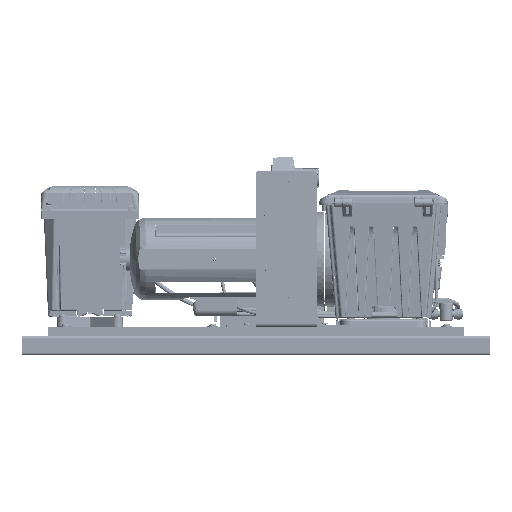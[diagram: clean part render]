
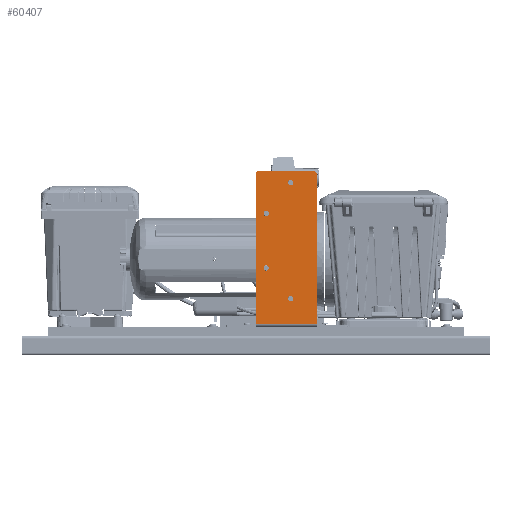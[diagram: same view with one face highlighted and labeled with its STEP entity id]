
A CAD part, left-side view. The second image highlights one B-rep face of the part: STEP entity #60407.
In plain terms, the highlighted planar face has unit normal (-1, 0, 0).
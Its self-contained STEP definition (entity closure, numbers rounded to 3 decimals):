
#2560 = EDGE_CURVE ( 'NONE', #83877, #119958, #22550, .T. ) ;
#8311 = VERTEX_POINT ( 'NONE', #39362 ) ;
#9138 = DIRECTION ( 'NONE',  ( 1., 0., 0. ) ) ;
#11041 = DIRECTION ( 'NONE',  ( 0., 0.707, -0.707 ) ) ;
#11767 = DIRECTION ( 'NONE',  ( 0., -1., 0. ) ) ;
#13036 = EDGE_CURVE ( 'NONE', #74373, #45444, #134914, .T. ) ;
#13299 = ORIENTED_EDGE ( 'NONE', *, *, #89158, .T. ) ;
#14690 = ORIENTED_EDGE ( 'NONE', *, *, #128660, .F. ) ;
#20498 = EDGE_CURVE ( 'NONE', #119958, #83877, #236260, .T. ) ;
#22071 = DIRECTION ( 'NONE',  ( 0., 0., 1. ) ) ;
#22550 = CIRCLE ( 'NONE', #115596, 0.107 ) ;
#23333 = VERTEX_POINT ( 'NONE', #210763 ) ;
#26526 = EDGE_LOOP ( 'NONE', ( #224797, #244587 ) ) ;
#28204 = EDGE_CURVE ( 'NONE', #303431, #35837, #162925, .T. ) ;
#32322 = FACE_OUTER_BOUND ( 'NONE', #106356, .T. ) ;
#32860 = VECTOR ( 'NONE', #11767, 39.37 ) ;
#33323 = CARTESIAN_POINT ( 'NONE',  ( -11.339, 1.411, 3.908 ) ) ;
#33717 = CARTESIAN_POINT ( 'NONE',  ( -11.339, 5.513, 5.887 ) ) ;
#35837 = VERTEX_POINT ( 'NONE', #52376 ) ;
#37648 = CARTESIAN_POINT ( 'NONE',  ( -11.339, -0.006, 2.137 ) ) ;
#38548 = CARTESIAN_POINT ( 'NONE',  ( -11.339, -0.006, 8.83 ) ) ;
#39362 = CARTESIAN_POINT ( 'NONE',  ( -11.339, -0.006, 8.936 ) ) ;
#39876 = DIRECTION ( 'NONE',  ( 0., -1., 0. ) ) ;
#43489 = AXIS2_PLACEMENT_3D ( 'NONE', #201815, #9138, #279530 ) ;
#44728 = DIRECTION ( 'NONE',  ( 1., 0., 0. ) ) ;
#45444 = VERTEX_POINT ( 'NONE', #265702 ) ;
#51018 = VERTEX_POINT ( 'NONE', #192394 ) ;
#52376 = CARTESIAN_POINT ( 'NONE',  ( -11.339, -1.5, 0.695 ) ) ;
#52953 = LINE ( 'NONE', #151749, #94807 ) ;
#55661 = ORIENTED_EDGE ( 'NONE', *, *, #303560, .T. ) ;
#56587 = FACE_BOUND ( 'NONE', #159055, .T. ) ;
#57825 = AXIS2_PLACEMENT_3D ( 'NONE', #309158, #131070, #186026 ) ;
#58037 = AXIS2_PLACEMENT_3D ( 'NONE', #148282, #44728, #22071 ) ;
#58144 = EDGE_LOOP ( 'NONE', ( #143174, #235472 ) ) ;
#60407 = ADVANCED_FACE ( 'NONE', ( #108344, #278447, #305966, #56587, #32322 ), #131056, .T. ) ;
#62464 = DIRECTION ( 'NONE',  ( 0., 0., 1. ) ) ;
#62768 = CARTESIAN_POINT ( 'NONE',  ( -11.339, 1.411, 3.802 ) ) ;
#64978 = VERTEX_POINT ( 'NONE', #197741 ) ;
#65652 = DIRECTION ( 'NONE',  ( 1., 0., 0. ) ) ;
#67436 = VERTEX_POINT ( 'NONE', #137015 ) ;
#74373 = VERTEX_POINT ( 'NONE', #199059 ) ;
#78652 = DIRECTION ( 'NONE',  ( 0., 0., 1. ) ) ;
#80863 = DIRECTION ( 'NONE',  ( 0., 0., 1. ) ) ;
#82335 = VERTEX_POINT ( 'NONE', #162530 ) ;
#83877 = VERTEX_POINT ( 'NONE', #253508 ) ;
#89158 = EDGE_CURVE ( 'NONE', #82335, #51018, #284460, .T. ) ;
#91617 = AXIS2_PLACEMENT_3D ( 'NONE', #38548, #307414, #109785 ) ;
#93534 = ORIENTED_EDGE ( 'NONE', *, *, #300885, .F. ) ;
#94807 = VECTOR ( 'NONE', #129042, 39.37 ) ;
#96665 = AXIS2_PLACEMENT_3D ( 'NONE', #33323, #227621, #78652 ) ;
#99276 = EDGE_CURVE ( 'NONE', #247679, #35837, #99513, .T. ) ;
#99513 = LINE ( 'NONE', #319859, #309854 ) ;
#100365 = AXIS2_PLACEMENT_3D ( 'NONE', #229846, #289678, #291271 ) ;
#106356 = EDGE_LOOP ( 'NONE', ( #14690, #55661, #93534, #187281, #243779, #130061 ) ) ;
#108344 = FACE_BOUND ( 'NONE', #26526, .T. ) ;
#109785 = DIRECTION ( 'NONE',  ( 0., 0., 1. ) ) ;
#110035 = EDGE_LOOP ( 'NONE', ( #181994, #265253 ) ) ;
#115596 = AXIS2_PLACEMENT_3D ( 'NONE', #282704, #65652, #62464 ) ;
#115737 = LINE ( 'NONE', #33717, #249927 ) ;
#117997 = VECTOR ( 'NONE', #263241, 39.37 ) ;
#119102 = CARTESIAN_POINT ( 'NONE',  ( -11.339, -5.013, 5.887 ) ) ;
#119958 = VERTEX_POINT ( 'NONE', #62768 ) ;
#128660 = EDGE_CURVE ( 'NONE', #64978, #186279, #134788, .T. ) ;
#128890 = ORIENTED_EDGE ( 'NONE', *, *, #234376, .T. ) ;
#129042 = DIRECTION ( 'NONE',  ( 0., 0., 1. ) ) ;
#129374 = AXIS2_PLACEMENT_3D ( 'NONE', #138274, #282437, #313177 ) ;
#130061 = ORIENTED_EDGE ( 'NONE', *, *, #189328, .T. ) ;
#131056 = PLANE ( 'NONE',  #100365 ) ;
#131070 = DIRECTION ( 'NONE',  ( 1., 0., 0. ) ) ;
#134788 = LINE ( 'NONE', #233565, #32860 ) ;
#134914 = CIRCLE ( 'NONE', #140267, 0.107 ) ;
#137015 = CARTESIAN_POINT ( 'NONE',  ( -11.339, -0.006, 8.723 ) ) ;
#138274 = CARTESIAN_POINT ( 'NONE',  ( -11.339, 1.411, 7.058 ) ) ;
#140267 = AXIS2_PLACEMENT_3D ( 'NONE', #37648, #297996, #80863 ) ;
#140272 = CARTESIAN_POINT ( 'NONE',  ( -11.339, 0.25, 0.695 ) ) ;
#140822 = CARTESIAN_POINT ( 'NONE',  ( -11.339, 2., 0.695 ) ) ;
#143174 = ORIENTED_EDGE ( 'NONE', *, *, #2560, .T. ) ;
#148282 = CARTESIAN_POINT ( 'NONE',  ( -11.339, -0.006, 8.83 ) ) ;
#151749 = CARTESIAN_POINT ( 'NONE',  ( -11.339, 2., 9.5 ) ) ;
#159055 = EDGE_LOOP ( 'NONE', ( #13299, #128890 ) ) ;
#162509 = EDGE_CURVE ( 'NONE', #8311, #67436, #231239, .T. ) ;
#162530 = CARTESIAN_POINT ( 'NONE',  ( -11.339, 1.411, 7.165 ) ) ;
#162925 = LINE ( 'NONE', #140272, #269475 ) ;
#181994 = ORIENTED_EDGE ( 'NONE', *, *, #162509, .T. ) ;
#186026 = DIRECTION ( 'NONE',  ( 0., 0., 1. ) ) ;
#186279 = VERTEX_POINT ( 'NONE', #281079 ) ;
#187281 = ORIENTED_EDGE ( 'NONE', *, *, #28204, .T. ) ;
#189328 = EDGE_CURVE ( 'NONE', #247679, #186279, #214660, .T. ) ;
#192394 = CARTESIAN_POINT ( 'NONE',  ( -11.339, 1.411, 6.952 ) ) ;
#197741 = CARTESIAN_POINT ( 'NONE',  ( -11.339, 1.9, 9.5 ) ) ;
#199059 = CARTESIAN_POINT ( 'NONE',  ( -11.339, -0.006, 2.03 ) ) ;
#201815 = CARTESIAN_POINT ( 'NONE',  ( -11.339, -0.006, 2.137 ) ) ;
#210763 = CARTESIAN_POINT ( 'NONE',  ( -11.339, 2., 9.4 ) ) ;
#214660 = LINE ( 'NONE', #119102, #117997 ) ;
#216202 = EDGE_CURVE ( 'NONE', #67436, #8311, #264937, .T. ) ;
#224797 = ORIENTED_EDGE ( 'NONE', *, *, #252025, .T. ) ;
#227621 = DIRECTION ( 'NONE',  ( 1., 0., 0. ) ) ;
#229846 = CARTESIAN_POINT ( 'NONE',  ( -11.339, 0.25, 0.625 ) ) ;
#231239 = CIRCLE ( 'NONE', #91617, 0.106 ) ;
#233565 = CARTESIAN_POINT ( 'NONE',  ( -11.339, -1.5, 9.5 ) ) ;
#234376 = EDGE_CURVE ( 'NONE', #51018, #82335, #239097, .T. ) ;
#235472 = ORIENTED_EDGE ( 'NONE', *, *, #20498, .T. ) ;
#236260 = CIRCLE ( 'NONE', #96665, 0.107 ) ;
#237795 = CARTESIAN_POINT ( 'NONE',  ( -11.339, -1.5, 9.4 ) ) ;
#239097 = CIRCLE ( 'NONE', #57825, 0.106 ) ;
#243779 = ORIENTED_EDGE ( 'NONE', *, *, #99276, .F. ) ;
#244587 = ORIENTED_EDGE ( 'NONE', *, *, #13036, .T. ) ;
#245361 = CIRCLE ( 'NONE', #43489, 0.107 ) ;
#247679 = VERTEX_POINT ( 'NONE', #237795 ) ;
#249927 = VECTOR ( 'NONE', #11041, 39.37 ) ;
#252025 = EDGE_CURVE ( 'NONE', #45444, #74373, #245361, .T. ) ;
#253508 = CARTESIAN_POINT ( 'NONE',  ( -11.339, 1.411, 4.015 ) ) ;
#263241 = DIRECTION ( 'NONE',  ( 0., 0.707, 0.707 ) ) ;
#264937 = CIRCLE ( 'NONE', #58037, 0.106 ) ;
#265253 = ORIENTED_EDGE ( 'NONE', *, *, #216202, .T. ) ;
#265702 = CARTESIAN_POINT ( 'NONE',  ( -11.339, -0.006, 2.243 ) ) ;
#269475 = VECTOR ( 'NONE', #39876, 39.37 ) ;
#278447 = FACE_BOUND ( 'NONE', #58144, .T. ) ;
#279530 = DIRECTION ( 'NONE',  ( 0., 0., 1. ) ) ;
#281079 = CARTESIAN_POINT ( 'NONE',  ( -11.339, -1.4, 9.5 ) ) ;
#282437 = DIRECTION ( 'NONE',  ( 1., 0., 0. ) ) ;
#282704 = CARTESIAN_POINT ( 'NONE',  ( -11.339, 1.411, 3.908 ) ) ;
#284460 = CIRCLE ( 'NONE', #129374, 0.106 ) ;
#289678 = DIRECTION ( 'NONE',  ( -1., 0., 0. ) ) ;
#291271 = DIRECTION ( 'NONE',  ( 0., 0., 1. ) ) ;
#293950 = DIRECTION ( 'NONE',  ( 0., 0., -1. ) ) ;
#297996 = DIRECTION ( 'NONE',  ( 1., 0., 0. ) ) ;
#300885 = EDGE_CURVE ( 'NONE', #303431, #23333, #52953, .T. ) ;
#303431 = VERTEX_POINT ( 'NONE', #140822 ) ;
#303560 = EDGE_CURVE ( 'NONE', #64978, #23333, #115737, .T. ) ;
#305966 = FACE_BOUND ( 'NONE', #110035, .T. ) ;
#307414 = DIRECTION ( 'NONE',  ( 1., 0., 0. ) ) ;
#309158 = CARTESIAN_POINT ( 'NONE',  ( -11.339, 1.411, 7.058 ) ) ;
#309854 = VECTOR ( 'NONE', #293950, 39.37 ) ;
#313177 = DIRECTION ( 'NONE',  ( 0., 0., 1. ) ) ;
#319859 = CARTESIAN_POINT ( 'NONE',  ( -11.339, -1.5, 0.625 ) ) ;
